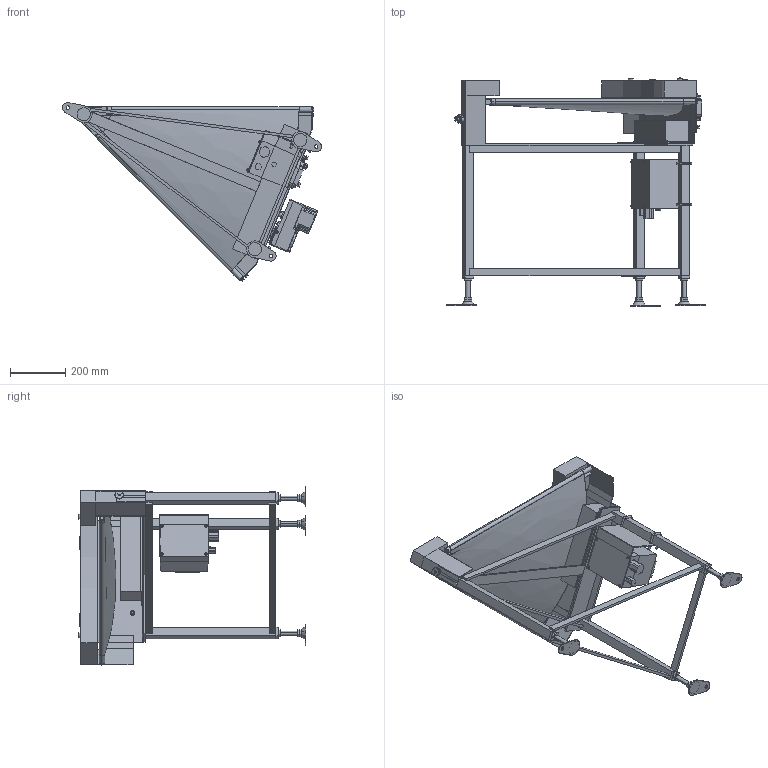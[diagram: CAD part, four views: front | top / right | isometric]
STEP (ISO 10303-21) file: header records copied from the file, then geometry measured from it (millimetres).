
FILE_DESCRIPTION (( 'STEP AP214' ), '1' );
FILE_NAME ('GFBC45-HS600-DC-L.STEP', '2024-01-18T01:35:07', ( '' ), ( '' ), 'SwSTEP 2.0', 'SolidWorks 2017', '' );
FILE_SCHEMA (( 'AUTOMOTIVE_DESIGN' ));
Length unit declared in the file: millimetre
Products named in the file (1): GFBC45-HS600-DC-L
Bounding box: 940.64 x 827.92 x 650.79 mm (x, y, z)
Volume: 17191887.7 mm3; surface area: 3632232 mm2
Topology: 65 solids, 66 shells, 1375 faces, 3219 edges, 2067 vertices
Faces by surface type: plane 863, cylinder 408, bspline 40, cone 40, torus 20, sphere 4
Entity records: 47303 total; most frequent: CARTESIAN_POINT 14708, DIRECTION 6655, ORIENTED_EDGE 6390, EDGE_CURVE 3195, AXIS2_PLACEMENT_3D 2277, VECTOR 2101, LINE 2101, VERTEX_POINT 2067
